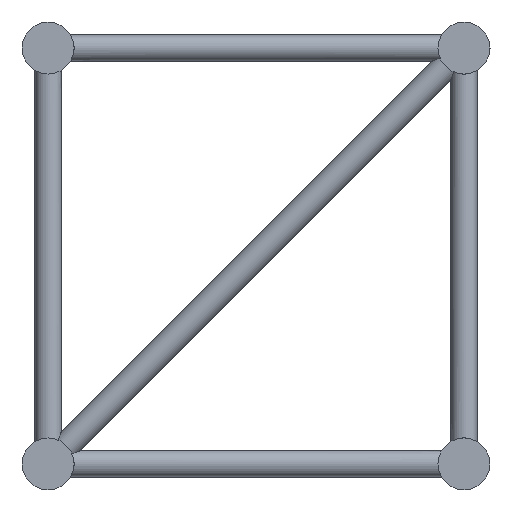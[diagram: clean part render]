
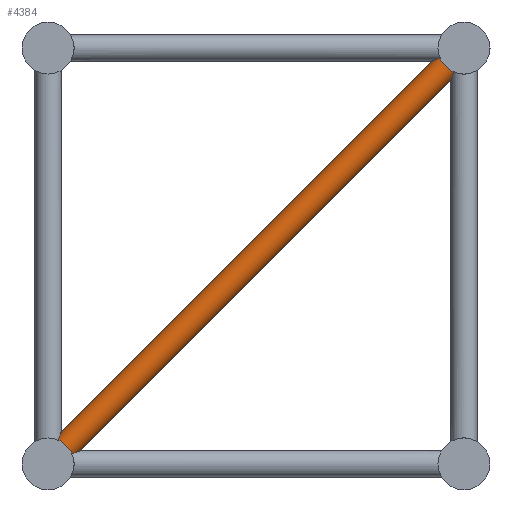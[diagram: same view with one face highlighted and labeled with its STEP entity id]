
A CAD part, left-side view. The second image highlights one B-rep face of the part: STEP entity #4384.
In plain terms, the highlighted cylindrical face has radius 15 mm (diameter 30 mm), a full revolution.
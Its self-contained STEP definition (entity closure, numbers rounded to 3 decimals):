
#615=FACE_BOUND('',#1057,.T.);
#769=FACE_OUTER_BOUND('',#1056,.T.);
#1056=EDGE_LOOP('',(#2830,#2831,#2832,#2833,#2834,#2835));
#1057=EDGE_LOOP('',(#2836,#2837,#2838,#2839,#2840,#2841));
#1498=CIRCLE('',#4698,15.);
#1499=CIRCLE('',#4699,15.);
#1500=CIRCLE('',#4701,15.);
#1501=CIRCLE('',#4702,15.);
#1502=CIRCLE('',#4704,15.);
#1503=CIRCLE('',#4705,15.);
#1504=CIRCLE('',#4707,15.);
#1505=CIRCLE('',#4708,15.);
#1706=ELLIPSE('',#4697,39.197,15.);
#1707=ELLIPSE('',#4700,39.197,15.);
#1708=ELLIPSE('',#4703,39.197,15.);
#1709=ELLIPSE('',#4706,39.197,15.);
#1834=VERTEX_POINT('',#6716);
#1835=VERTEX_POINT('',#6717);
#1836=VERTEX_POINT('',#6719);
#1837=VERTEX_POINT('',#6721);
#1838=VERTEX_POINT('',#6723);
#1839=VERTEX_POINT('',#6725);
#1840=VERTEX_POINT('',#6728);
#1841=VERTEX_POINT('',#6729);
#1842=VERTEX_POINT('',#6731);
#1843=VERTEX_POINT('',#6733);
#1844=VERTEX_POINT('',#6735);
#1845=VERTEX_POINT('',#6737);
#2228=EDGE_CURVE('',#1834,#1835,#1706,.T.);
#2229=EDGE_CURVE('',#1836,#1834,#1498,.T.);
#2230=EDGE_CURVE('',#1837,#1836,#1499,.T.);
#2231=EDGE_CURVE('',#1838,#1837,#1707,.T.);
#2232=EDGE_CURVE('',#1839,#1838,#1500,.T.);
#2233=EDGE_CURVE('',#1835,#1839,#1501,.T.);
#2234=EDGE_CURVE('',#1840,#1841,#1708,.T.);
#2235=EDGE_CURVE('',#1842,#1840,#1502,.T.);
#2236=EDGE_CURVE('',#1843,#1842,#1503,.T.);
#2237=EDGE_CURVE('',#1844,#1843,#1709,.T.);
#2238=EDGE_CURVE('',#1845,#1844,#1504,.T.);
#2239=EDGE_CURVE('',#1841,#1845,#1505,.T.);
#2830=ORIENTED_EDGE('',*,*,#2228,.F.);
#2831=ORIENTED_EDGE('',*,*,#2229,.F.);
#2832=ORIENTED_EDGE('',*,*,#2230,.F.);
#2833=ORIENTED_EDGE('',*,*,#2231,.F.);
#2834=ORIENTED_EDGE('',*,*,#2232,.F.);
#2835=ORIENTED_EDGE('',*,*,#2233,.F.);
#2836=ORIENTED_EDGE('',*,*,#2234,.F.);
#2837=ORIENTED_EDGE('',*,*,#2235,.F.);
#2838=ORIENTED_EDGE('',*,*,#2236,.F.);
#2839=ORIENTED_EDGE('',*,*,#2237,.F.);
#2840=ORIENTED_EDGE('',*,*,#2238,.F.);
#2841=ORIENTED_EDGE('',*,*,#2239,.F.);
#4011=CYLINDRICAL_SURFACE('',#4696,15.);
#4384=ADVANCED_FACE('',(#769,#615),#4011,.T.);
#4696=AXIS2_PLACEMENT_3D('',#6715,#5359,#5360);
#4697=AXIS2_PLACEMENT_3D('',#6718,#5361,#5362);
#4698=AXIS2_PLACEMENT_3D('',#6720,#5363,#5364);
#4699=AXIS2_PLACEMENT_3D('',#6722,#5365,#5366);
#4700=AXIS2_PLACEMENT_3D('',#6724,#5367,#5368);
#4701=AXIS2_PLACEMENT_3D('',#6726,#5369,#5370);
#4702=AXIS2_PLACEMENT_3D('',#6727,#5371,#5372);
#4703=AXIS2_PLACEMENT_3D('',#6730,#5373,#5374);
#4704=AXIS2_PLACEMENT_3D('',#6732,#5375,#5376);
#4705=AXIS2_PLACEMENT_3D('',#6734,#5377,#5378);
#4706=AXIS2_PLACEMENT_3D('',#6736,#5379,#5380);
#4707=AXIS2_PLACEMENT_3D('',#6738,#5381,#5382);
#4708=AXIS2_PLACEMENT_3D('',#6739,#5383,#5384);
#5359=DIRECTION('center_axis',(0.,-0.707,
0.707));
#5360=DIRECTION('ref_axis',(0.,-0.707,-0.707));
#5361=DIRECTION('center_axis',(0.,0.383,0.924));
#5362=DIRECTION('ref_axis',(0.,-0.924,0.383));
#5363=DIRECTION('center_axis',(0.,-0.707,
0.707));
#5364=DIRECTION('ref_axis',(0.,-0.707,-0.707));
#5365=DIRECTION('center_axis',(0.,-0.707,
0.707));
#5366=DIRECTION('ref_axis',(0.,-0.707,-0.707));
#5367=DIRECTION('center_axis',(0.,-0.924,-0.383));
#5368=DIRECTION('ref_axis',(0.,0.383,-0.924));
#5369=DIRECTION('center_axis',(0.,-0.707,
0.707));
#5370=DIRECTION('ref_axis',(0.,-0.707,-0.707));
#5371=DIRECTION('center_axis',(0.,-0.707,
0.707));
#5372=DIRECTION('ref_axis',(0.,-0.707,-0.707));
#5373=DIRECTION('center_axis',(0.,-0.383,-0.924));
#5374=DIRECTION('ref_axis',(0.,-0.924,0.383));
#5375=DIRECTION('center_axis',(0.,0.707,-0.707));
#5376=DIRECTION('ref_axis',(0.,-0.707,-0.707));
#5377=DIRECTION('center_axis',(0.,0.707,-0.707));
#5378=DIRECTION('ref_axis',(0.,-0.707,-0.707));
#5379=DIRECTION('center_axis',(0.,0.924,0.383));
#5380=DIRECTION('ref_axis',(0.,0.383,-0.924));
#5381=DIRECTION('center_axis',(0.,0.707,-0.707));
#5382=DIRECTION('ref_axis',(0.,-0.707,-0.707));
#5383=DIRECTION('center_axis',(0.,0.707,-0.707));
#5384=DIRECTION('ref_axis',(0.,-0.707,-0.707));
#6715=CARTESIAN_POINT('Origin',(95.,452.322,-452.322));
#6716=CARTESIAN_POINT('',(105.852,25.,-10.356));
#6717=CARTESIAN_POINT('',(84.148,25.,-10.356));
#6718=CARTESIAN_POINT('Origin',(95.,0.,0.));
#6719=CARTESIAN_POINT('',(110.,17.678,-17.678));
#6720=CARTESIAN_POINT('Origin',(95.,17.678,-17.678));
#6721=CARTESIAN_POINT('',(105.852,10.356,-25.));
#6722=CARTESIAN_POINT('Origin',(95.,17.678,-17.678));
#6723=CARTESIAN_POINT('',(84.148,10.356,-25.));
#6724=CARTESIAN_POINT('Origin',(95.,0.,0.));
#6725=CARTESIAN_POINT('',(80.,17.678,-17.678));
#6726=CARTESIAN_POINT('Origin',(95.,17.678,-17.678));
#6727=CARTESIAN_POINT('Origin',(95.,17.678,-17.678));
#6728=CARTESIAN_POINT('',(105.852,445.,-459.645));
#6729=CARTESIAN_POINT('',(84.148,445.,-459.645));
#6730=CARTESIAN_POINT('Origin',(95.,470.,-470.));
#6731=CARTESIAN_POINT('',(110.,452.322,-452.322));
#6732=CARTESIAN_POINT('Origin',(95.,452.322,-452.322));
#6733=CARTESIAN_POINT('',(105.852,459.645,-445.));
#6734=CARTESIAN_POINT('Origin',(95.,452.322,-452.322));
#6735=CARTESIAN_POINT('',(84.148,459.645,-445.));
#6736=CARTESIAN_POINT('Origin',(95.,470.,-470.));
#6737=CARTESIAN_POINT('',(80.,452.322,-452.322));
#6738=CARTESIAN_POINT('Origin',(95.,452.322,-452.322));
#6739=CARTESIAN_POINT('Origin',(95.,452.322,-452.322));
